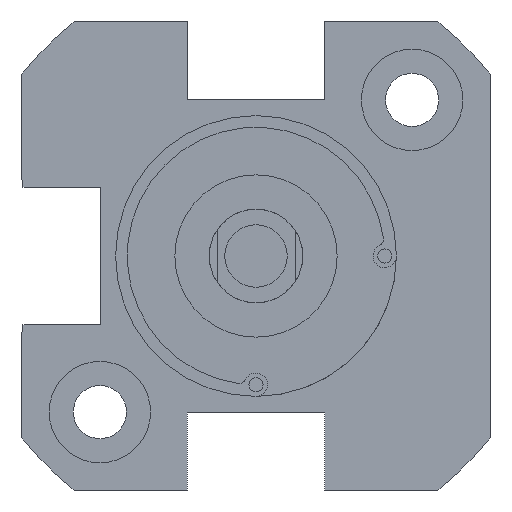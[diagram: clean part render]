
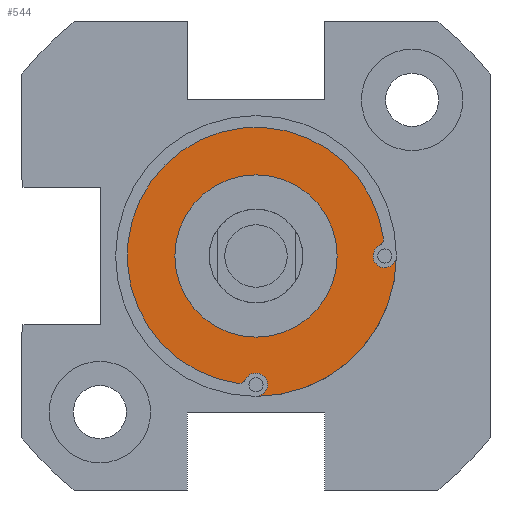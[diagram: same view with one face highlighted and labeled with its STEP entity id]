
A CAD part, front view. The second image highlights one B-rep face of the part: STEP entity #544.
In plain terms, the highlighted planar face has unit normal (0, -1, 0).
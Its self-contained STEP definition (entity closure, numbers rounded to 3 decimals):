
#6 = DIRECTION ( 'NONE',  ( 0., 0., 1. ) ) ;
#23 = AXIS2_PLACEMENT_3D ( 'NONE', #1871, #2833, #624 ) ;
#39 = CARTESIAN_POINT ( 'NONE',  ( 0., -41.5, 0. ) ) ;
#57 = DIRECTION ( 'NONE',  ( 0., 0., -1. ) ) ;
#65 = VERTEX_POINT ( 'NONE', #473 ) ;
#76 = FACE_OUTER_BOUND ( 'NONE', #1669, .T. ) ;
#179 = ORIENTED_EDGE ( 'NONE', *, *, #2731, .F. ) ;
#248 = AXIS2_PLACEMENT_3D ( 'NONE', #938, #474, #945 ) ;
#266 = DIRECTION ( 'NONE',  ( 0., 1., 0. ) ) ;
#280 = DIRECTION ( 'NONE',  ( 0., 1., 0. ) ) ;
#304 = EDGE_CURVE ( 'NONE', #959, #1442, #1836, .T. ) ;
#360 = DIRECTION ( 'NONE',  ( 0., 1., 0. ) ) ;
#418 = ORIENTED_EDGE ( 'NONE', *, *, #2901, .T. ) ;
#456 = VERTEX_POINT ( 'NONE', #1564 ) ;
#473 = CARTESIAN_POINT ( 'NONE',  ( 0., -41.5, 5.2 ) ) ;
#474 = DIRECTION ( 'NONE',  ( 0., 1., 0. ) ) ;
#481 = CARTESIAN_POINT ( 'NONE',  ( 7.67, -41.5, 1.108 ) ) ;
#515 = CIRCLE ( 'NONE', #675, 5.2 ) ;
#518 = EDGE_CURVE ( 'NONE', #3089, #2656, #2164, .T. ) ;
#544 = ADVANCED_FACE ( 'NONE', ( #76, #1494 ), #2870, .T. ) ;
#572 = ORIENTED_EDGE ( 'NONE', *, *, #518, .T. ) ;
#574 = CARTESIAN_POINT ( 'NONE',  ( -0.665, -41.5, -7.902 ) ) ;
#622 = AXIS2_PLACEMENT_3D ( 'NONE', #1587, #2593, #1111 ) ;
#624 = DIRECTION ( 'NONE',  ( 0., 0., -1. ) ) ;
#675 = AXIS2_PLACEMENT_3D ( 'NONE', #39, #280, #2525 ) ;
#702 = EDGE_CURVE ( 'NONE', #2815, #3089, #2690, .T. ) ;
#792 = DIRECTION ( 'NONE',  ( 0., 1., 0. ) ) ;
#938 = CARTESIAN_POINT ( 'NONE',  ( 0., -41.5, 0. ) ) ;
#945 = DIRECTION ( 'NONE',  ( 0., 0., 1. ) ) ;
#959 = VERTEX_POINT ( 'NONE', #1052 ) ;
#998 = CARTESIAN_POINT ( 'NONE',  ( 8.25, -41.5, -0.75 ) ) ;
#1021 = CARTESIAN_POINT ( 'NONE',  ( -1.108, -41.5, -8.17 ) ) ;
#1052 = CARTESIAN_POINT ( 'NONE',  ( -1.179, -41.5, -8.165 ) ) ;
#1111 = DIRECTION ( 'NONE',  ( 0., 0., 1. ) ) ;
#1114 = DIRECTION ( 'NONE',  ( 0., 0., 1. ) ) ;
#1141 = CIRCLE ( 'NONE', #622, 0.75 ) ;
#1214 = CARTESIAN_POINT ( 'NONE',  ( 0., -41.5, -9. ) ) ;
#1439 = DIRECTION ( 'NONE',  ( 0., 0., -1. ) ) ;
#1442 = VERTEX_POINT ( 'NONE', #1542 ) ;
#1460 = CIRCLE ( 'NONE', #248, 5.2 ) ;
#1494 = FACE_BOUND ( 'NONE', #1578, .T. ) ;
#1542 = CARTESIAN_POINT ( 'NONE',  ( 8.165, -41.5, 1.179 ) ) ;
#1549 = EDGE_CURVE ( 'NONE', #1628, #65, #515, .T. ) ;
#1564 = CARTESIAN_POINT ( 'NONE',  ( 9., -41.5, 0. ) ) ;
#1578 = EDGE_LOOP ( 'NONE', ( #1830, #3198 ) ) ;
#1579 = CARTESIAN_POINT ( 'NONE',  ( 0., -41.5, 0. ) ) ;
#1587 = CARTESIAN_POINT ( 'NONE',  ( 8.25, -41.5, 0. ) ) ;
#1623 = ORIENTED_EDGE ( 'NONE', *, *, #1800, .T. ) ;
#1628 = VERTEX_POINT ( 'NONE', #1741 ) ;
#1669 = EDGE_LOOP ( 'NONE', ( #1623, #1771, #2689, #2366, #418, #1908, #572, #179 ) ) ;
#1674 = EDGE_CURVE ( 'NONE', #2764, #2221, #1141, .T. ) ;
#1707 = CIRCLE ( 'NONE', #3087, 0.5 ) ;
#1741 = CARTESIAN_POINT ( 'NONE',  ( 0., -41.5, -5.2 ) ) ;
#1771 = ORIENTED_EDGE ( 'NONE', *, *, #1674, .T. ) ;
#1800 = EDGE_CURVE ( 'NONE', #456, #2764, #2871, .T. ) ;
#1830 = ORIENTED_EDGE ( 'NONE', *, *, #1549, .T. ) ;
#1836 = CIRCLE ( 'NONE', #2536, 8.25 ) ;
#1871 = CARTESIAN_POINT ( 'NONE',  ( -1.108, -41.5, -7.67 ) ) ;
#1908 = ORIENTED_EDGE ( 'NONE', *, *, #702, .T. ) ;
#1937 = AXIS2_PLACEMENT_3D ( 'NONE', #3207, #266, #6 ) ;
#2030 = DIRECTION ( 'NONE',  ( 0., 0., 1. ) ) ;
#2109 = CARTESIAN_POINT ( 'NONE',  ( 0., -41.5, -8.25 ) ) ;
#2134 = CIRCLE ( 'NONE', #1937, 9. ) ;
#2153 = AXIS2_PLACEMENT_3D ( 'NONE', #2109, #360, #1114 ) ;
#2164 = CIRCLE ( 'NONE', #2153, 0.75 ) ;
#2221 = VERTEX_POINT ( 'NONE', #2659 ) ;
#2305 = AXIS2_PLACEMENT_3D ( 'NONE', #2533, #2311, #57 ) ;
#2311 = DIRECTION ( 'NONE',  ( 0., -1., 0. ) ) ;
#2366 = ORIENTED_EDGE ( 'NONE', *, *, #304, .F. ) ;
#2379 = DIRECTION ( 'NONE',  ( 0., 0., 1. ) ) ;
#2525 = DIRECTION ( 'NONE',  ( 0., 0., 1. ) ) ;
#2533 = CARTESIAN_POINT ( 'NONE',  ( -1.108, -41.5, -7.67 ) ) ;
#2536 = AXIS2_PLACEMENT_3D ( 'NONE', #1579, #792, #2030 ) ;
#2593 = DIRECTION ( 'NONE',  ( 0., 1., 0. ) ) ;
#2595 = EDGE_CURVE ( 'NONE', #2221, #1442, #1707, .T. ) ;
#2613 = DIRECTION ( 'NONE',  ( 0., -1., 0. ) ) ;
#2625 = DIRECTION ( 'NONE',  ( 0., 0., 1. ) ) ;
#2633 = DIRECTION ( 'NONE',  ( 0., 1., 0. ) ) ;
#2647 = EDGE_CURVE ( 'NONE', #65, #1628, #1460, .T. ) ;
#2656 = VERTEX_POINT ( 'NONE', #1214 ) ;
#2659 = CARTESIAN_POINT ( 'NONE',  ( 7.902, -41.5, 0.665 ) ) ;
#2689 = ORIENTED_EDGE ( 'NONE', *, *, #2595, .T. ) ;
#2690 = CIRCLE ( 'NONE', #23, 0.5 ) ;
#2731 = EDGE_CURVE ( 'NONE', #456, #2656, #2134, .T. ) ;
#2764 = VERTEX_POINT ( 'NONE', #998 ) ;
#2815 = VERTEX_POINT ( 'NONE', #1021 ) ;
#2833 = DIRECTION ( 'NONE',  ( 0., -1., 0. ) ) ;
#2850 = AXIS2_PLACEMENT_3D ( 'NONE', #3092, #2613, #2625 ) ;
#2859 = CARTESIAN_POINT ( 'NONE',  ( 8.25, -41.5, 0. ) ) ;
#2870 = PLANE ( 'NONE',  #2850 ) ;
#2871 = CIRCLE ( 'NONE', #3109, 0.75 ) ;
#2901 = EDGE_CURVE ( 'NONE', #959, #2815, #2972, .T. ) ;
#2937 = DIRECTION ( 'NONE',  ( 0., -1., 0. ) ) ;
#2972 = CIRCLE ( 'NONE', #2305, 0.5 ) ;
#3087 = AXIS2_PLACEMENT_3D ( 'NONE', #481, #2937, #1439 ) ;
#3089 = VERTEX_POINT ( 'NONE', #574 ) ;
#3092 = CARTESIAN_POINT ( 'NONE',  ( 0., -41.5, 0. ) ) ;
#3109 = AXIS2_PLACEMENT_3D ( 'NONE', #2859, #2633, #2379 ) ;
#3198 = ORIENTED_EDGE ( 'NONE', *, *, #2647, .T. ) ;
#3207 = CARTESIAN_POINT ( 'NONE',  ( 0., -41.5, 0. ) ) ;
